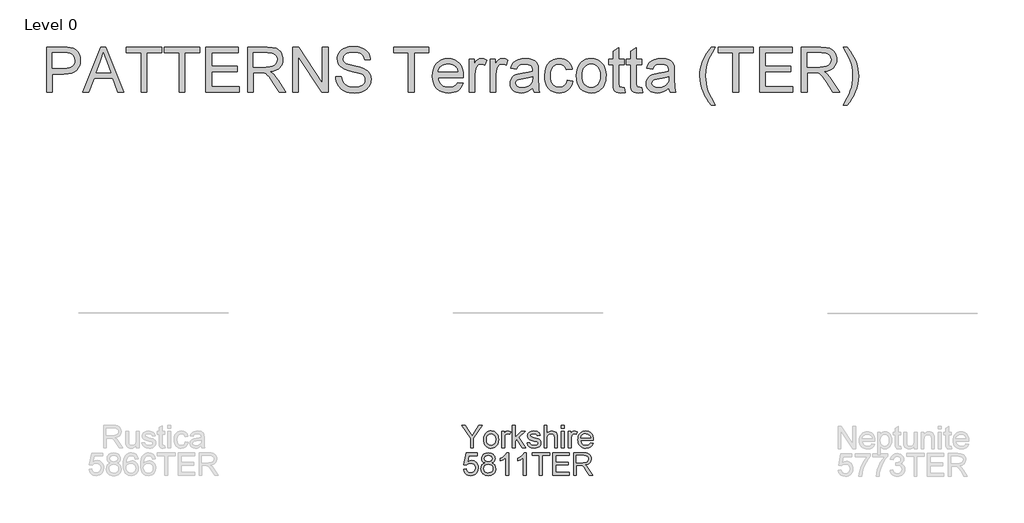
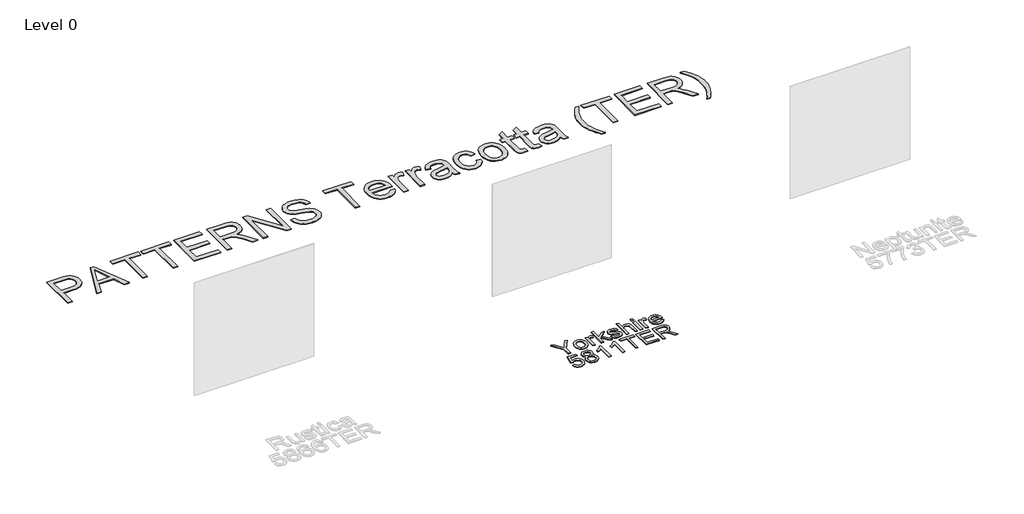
# One storey, part 17 of 29: 2 proxies.
"""IFC4 building model written with IfcOpenShell, lengths in millimetres."""

from ifc_helpers import new_model, si_unit, origin, origin_with_axes, place, context, project, spatial, polyline, outline, extrude, element, save

model = new_model("IFC4")

# Units and contexts
model_context = context("Model", 3, world=origin())
ifc_project = project(units=[si_unit("LENGTHUNIT", "METRE", prefix="MILLI")], contexts=[model_context])

# Site, building, storey
site = spatial("IfcSite", under=ifc_project)
building = spatial("IfcBuilding", under=site)
storey = spatial("IfcBuildingStorey", under=building, Name="Level 0", Elevation=0.0)

# Proxies
placement = place(None, origin())
element("IfcBuildingElementProxy", 1, Name="300mm Arial", ObjectType="300mm Arial", at=placement, inside=storey, context=model_context, shape_type="SweptSolid", body=[
    extrude(outline(polyline([(22784.1473937, -22007.860494), (22784.1473937, -21880.2054417), (22666.4251553, -21706.4915635), (22710.8653003, -21706.4915635), (22773.6995451, -21799.2714027), (22805.8524314, -21846.5810273), (22838.0788942, -21795.8868884), (22895.1006035, -21706.4915635), (22939.5407485, -21706.4915635), (22821.81851, -21880.2054417), (22821.81851, -22007.860494), (22784.1473937, -22007.860494)])), origin_with_axes(), (0.0, 0.0, 1.0), 10.0),
    extrude(outline(polyline([(22958.3763066, -21897.2015898), (22960.4134532, -21868.5389839), (22966.5248928, -21843.8403064), (22976.7106256, -21823.1055575), (22990.9706514, -21806.334737), (23005.3272463, -21795.6155754), (23021.1737632, -21787.9590314), (23038.5102022, -21783.3651049), (23057.3365633, -21781.8337961), (23078.1195968, -21783.698498), (23096.911469, -21789.2926036), (23113.7121798, -21798.6161129), (23128.5217294, -21811.669026), (23140.6089522, -21828.0098843), (23149.2426828, -21847.1972296), (23154.4229211, -21869.2310619), (23156.1496672, -21894.1113811), (23153.0962467, -21932.1687735), (23143.935985, -21961.1394806), (23128.9355967, -21982.8353213), (23108.3617961, -21999.0681143), (23083.9252345, -22009.1940662), (23057.3365633, -22012.5693835), (23036.2500272, -22010.7115794), (23017.2834111, -22005.1381672), (23000.436715, -21995.8491468), (22985.7099389, -21982.8445183), (22973.7514748, -21966.3450108), (22965.2097147, -21946.5713536), (22960.0846587, -21923.5235466), (22958.3763066, -21897.2015898)]), holes=[polyline([(22996.0474229, -21897.1280134), (23000.4068246, -21931.2214773), (23013.4850295, -21955.5108861), (23033.1667163, -21970.0514219), (23057.3365633, -21974.8982672), (23081.3960458, -21970.0238308), (23101.0409444, -21955.4005215), (23114.1191493, -21930.789216), (23118.4785509, -21895.950791), (23114.0915581, -21862.8506085), (23100.9305798, -21838.8922936), (23081.2580901, -21824.3517577), (23057.3365633, -21819.5049125), (23033.1667163, -21824.3333636), (23013.4850295, -21838.8187172), (23000.4068246, -21863.0529436), (22996.0474229, -21897.1280134)])]), origin_with_axes(), (0.0, 0.0, 1.0), 10.0),
    extrude(outline(polyline([(23198.5296731, -22007.860494), (23198.5296731, -21786.5426857), (23231.4918999, -21786.5426857), (23231.4918999, -21819.2841833), (23243.6687939, -21800.3014723), (23254.8891948, -21789.1178596), (23266.1463838, -21783.654812), (23278.4336424, -21781.8337961), (23297.1956242, -21784.7400639), (23316.2519115, -21793.4588672), (23303.6703473, -21827.2304343), (23290.4265955, -21821.4362929), (23277.1828437, -21819.5049125), (23265.9348517, -21821.3627165), (23255.8824761, -21826.9361288), (23247.7614811, -21835.8020848), (23242.3076305, -21847.5375205), (23237.7274997, -21868.5803706), (23236.2007894, -21891.5362071), (23236.2007894, -22007.860494), (23198.5296731, -22007.860494)])), origin_with_axes(), (0.0, 0.0, 1.0), 10.0),
    extrude(outline(polyline([(23339.7963592, -22007.860494), (23339.7963592, -21706.4915635), (23377.4674755, -21706.4915635), (23377.4674755, -21868.4332178), (23461.9331816, -21786.5426857), (23514.0252722, -21786.5426857), (23428.5294965, -21869.4632874), (23518.7341617, -22007.860494), (23474.7354751, -22007.860494), (23401.526958, -21895.6564855), (23377.4674755, -21918.9802039), (23377.4674755, -22007.860494), (23339.7963592, -22007.860494)])), origin_with_axes(), (0.0, 0.0, 1.0), 10.0),
    extrude(outline(polyline([(23537.5697198, -21941.9360404), (23575.2408362, -21937.2271509), (23581.1821304, -21953.3403823), (23592.6784427, -21965.1861825), (23609.8033496, -21972.470246), (23632.6304274, -21974.8982672), (23655.1815937, -21972.6725811), (23671.0373077, -21965.9955229), (23680.4182986, -21956.3202265), (23683.5452955, -21945.0998256), (23680.3999045, -21935.4981055), (23670.9637313, -21928.1772538), (23632.188969, -21917.4350996), (23575.4615653, -21899.0042116), (23561.1049705, -21889.7427824), (23550.7031071, -21877.4831149), (23544.3847338, -21863.0069584), (23542.2786094, -21847.0960621), (23543.9708666, -21832.5003439), (23549.0476381, -21819.0266659), (23557.0490715, -21807.2084568), (23567.5153143, -21797.5791455), (23591.4644321, -21786.4323211), (23623.8748359, -21781.8337961), (23648.3941709, -21783.6824032), (23669.7129325, -21789.2282242), (23686.8562335, -21797.9286334), (23698.8491865, -21809.2410048), (23706.7954376, -21824.0022698), (23711.7986328, -21843.0493601), (23674.1275165, -21847.7582497), (23669.3726417, -21835.9032524), (23659.9640596, -21826.972917), (23645.8097999, -21821.3719136), (23626.8178919, -21819.5049125), (23605.1864306, -21821.2891401), (23590.7654563, -21826.6418232), (23582.6536584, -21834.3673451), (23579.9497257, -21843.2700893), (23584.437886, -21854.2329728), (23598.4909782, -21862.5471059), (23630.9381702, -21870.5669334), (23686.2308341, -21888.2988455), (23700.8357493, -21896.7785255), (23711.9089974, -21908.3852025), (23718.8895582, -21923.1556646), (23721.2164118, -21941.1267001), (23718.484888, -21959.7047408), (23710.2903166, -21977.1791356), (23696.9453972, -21992.1795239), (23678.7628296, -22003.3355454), (23656.8002745, -22010.260924), (23632.1153926, -22012.5693835), (23594.1315766, -22008.1180114), (23566.4116683, -21994.763895), (23547.9072039, -21972.654187), (23537.5697198, -21941.9360404)])), origin_with_axes(), (0.0, 0.0, 1.0), 10.0),
    extrude(outline(polyline([(23763.5964177, -22007.860494), (23763.5964177, -21706.4915635), (23801.267534, -21706.4915635), (23801.267534, -21817.2976205), (23815.1044955, -21801.7821973), (23830.6429113, -21790.6997522), (23847.8827813, -21784.0502852), (23866.8241055, -21781.8337961), (23889.5776069, -21784.2526203), (23909.130535, -21791.5090926), (23924.5263965, -21803.0329961), (23934.8086982, -21818.2541137), (23940.6028397, -21839.1682051), (23942.5342201, -21867.7710302), (23942.5342201, -22007.860494), (23904.8631038, -22007.860494), (23904.8631038, -21871.6705794), (23901.8648656, -21848.0893435), (23892.8701508, -21831.9393239), (23878.3756002, -21822.6135153), (23858.8778544, -21819.5049125), (23842.9577611, -21821.6018398), (23828.012555, -21827.8926219), (23815.6333259, -21837.7702535), (23807.4111633, -21850.6277292), (23802.8034413, -21867.7158479), (23801.267534, -21890.2854083), (23801.267534, -22007.860494), (23763.5964177, -22007.860494)])), origin_with_axes(), (0.0, 0.0, 1.0), 10.0),
    extrude(outline(polyline([(23994.3320051, -21744.1626798), (23994.3320051, -21706.4915635), (24032.0031214, -21706.4915635), (24032.0031214, -21744.1626798), (23994.3320051, -21744.1626798)])), origin_with_axes(), (0.0, 0.0, 1.0), 10.0),
    extrude(outline(polyline([(23994.3320051, -22007.860494), (23994.3320051, -21786.5426857), (24032.0031214, -21786.5426857), (24032.0031214, -22007.860494), (23994.3320051, -22007.860494)])), origin_with_axes(), (0.0, 0.0, 1.0), 10.0),
    extrude(outline(polyline([(24088.5097958, -22007.860494), (24088.5097958, -21786.5426857), (24121.4720226, -21786.5426857), (24121.4720226, -21819.2841833), (24133.6489166, -21800.3014723), (24144.8693175, -21789.1178596), (24156.1265065, -21783.654812), (24168.4137652, -21781.8337961), (24187.1757469, -21784.7400639), (24206.2320343, -21793.4588672), (24193.65047, -21827.2304343), (24180.4067182, -21821.4362929), (24167.1629664, -21819.5049125), (24155.9149744, -21821.3627165), (24145.8625989, -21826.9361288), (24137.7416038, -21835.8020848), (24132.2877532, -21847.5375205), (24127.7076224, -21868.5803706), (24126.1809121, -21891.5362071), (24126.1809121, -22007.860494), (24088.5097958, -22007.860494)])), origin_with_axes(), (0.0, 0.0, 1.0), 10.0),
    extrude(outline(polyline([(24384.7283783, -21941.9360404), (24421.6637307, -21946.64493), (24408.3555995, -21974.4752029), (24387.1196113, -21995.2789297), (24358.4340127, -22008.2467701), (24322.7770504, -22012.5693835), (24299.4027481, -22010.7046817), (24278.5760286, -22005.1105761), (24260.296892, -21995.7870668), (24244.5653382, -21982.7341537), (24231.9147961, -21966.3151204), (24222.8786946, -21946.8932503), (24217.4570337, -21924.4685435), (24215.6498134, -21899.0409998), (24217.4754278, -21872.7512327), (24222.952271, -21849.5792656), (24232.080343, -21829.5250983), (24244.8596438, -21812.5887309), (24260.5498109, -21799.133447), (24278.4104817, -21789.5225298), (24298.4416564, -21783.7559796), (24320.6433348, -21781.8337961), (24342.1299426, -21783.751381), (24361.5610097, -21789.5041357), (24378.9365362, -21799.0920602), (24394.256522, -21812.5151545), (24406.7622106, -21829.4147337), (24415.6948453, -21849.4321128), (24421.0544261, -21872.5672917), (24422.840953, -21898.8202706), (24422.6202238, -21908.9738137), (24253.3209297, -21908.9738137), (24259.841638, -21937.1719686), (24274.9891792, -21957.902119), (24296.8505667, -21970.6492302), (24323.5128143, -21974.8982672), (24343.5623831, -21972.9300985), (24360.4481667, -21967.0255925), (24374.1701651, -21956.8168672), (24384.7283783, -21941.9360404)]), holes=[polyline([(24253.3209297, -21871.3026974), (24385.1698367, -21871.3026974), (24380.0746711, -21851.4002814), (24370.0866749, -21837.1632482), (24348.1241198, -21823.9194964), (24320.496182, -21819.5049125), (24295.1031273, -21823.0273826), (24274.1062624, -21833.5947929), (24259.5105442, -21850.0667092), (24253.3209297, -21871.3026974)])]), origin_with_axes(), (0.0, 0.0, 1.0), 10.0),
    extrude(outline(polyline([(22689.969603, -22293.7338254), (22727.6407193, -22289.0249358), (22734.5569008, -22311.6404815), (22746.6234302, -22327.8364863), (22763.7851253, -22337.5761621), (22785.9868037, -22340.8227207), (22812.9893421, -22336.3069693), (22833.2228519, -22322.7597148), (22845.8595984, -22301.7444558), (22850.0718473, -22274.8246908), (22846.1263129, -22249.4776213), (22834.2897097, -22230.0902402), (22814.4700672, -22217.7845875), (22786.5754149, -22213.6827032), (22768.3008768, -22215.3197781), (22753.5028235, -22220.2310027), (22732.3496088, -22237.2271509), (22694.6784925, -22232.5182614), (22727.6407193, -22077.1249066), (22873.616295, -22077.1249066), (22873.616295, -22114.7960229), (22758.1013485, -22114.7960229), (22741.9881171, -22197.790201), (22768.898685, -22181.4562404), (22797.09684, -22176.0115869), (22815.4426552, -22177.6992456), (22832.2939498, -22182.7622215), (22847.6507239, -22191.2005148), (22861.5129773, -22203.0141254), (22872.9885963, -22217.4810848), (22881.185467, -22233.8794248), (22886.1035894, -22252.2091452), (22887.7429636, -22272.470246), (22881.8384575, -22310.1413624), (22874.457825, -22326.9351754), (22864.1249395, -22342.3678251), (22848.4715606, -22358.1729553), (22830.2062195, -22369.4623341), (22809.3289163, -22376.2359613), (22785.8396509, -22378.4938371), (22748.8399192, -22372.6904986), (22733.1612485, -22365.4363255), (22719.3633744, -22355.2804832), (22707.8831569, -22342.7288093), (22699.1574558, -22328.2871418), (22689.969603, -22293.7338254)])), origin_with_axes(), (0.0, 0.0, 1.0), 10.0),
    extrude(outline(polyline([(22975.593184, -22207.7965913), (22955.4240536, -22197.8637774), (22941.2697939, -22184.3992964), (22932.9096755, -22167.6790597), (22930.1229694, -22147.9789789), (22931.6404826, -22132.6153071), (22936.1930223, -22118.5300252), (22943.7805885, -22105.7231332), (22954.4031811, -22094.1946312), (22967.5503639, -22084.6664875), (22982.7117006, -22077.8606706), (23019.0768358, -22072.4160171), (23055.6627003, -22077.9894293), (23070.9895839, -22084.9561946), (23084.3391018, -22094.709666), (23095.1548324, -22106.4634957), (23102.8803543, -22119.4313361), (23107.5156675, -22133.613187), (23109.0607719, -22149.0090485), (23106.310854, -22168.0745329), (23098.0611002, -22184.509661), (23084.2195401, -22197.8913686), (23064.6942032, -22207.7965913), (23087.879966, -22219.7435591), (23104.7565525, -22237.3375155), (23115.0480513, -22259.732332), (23118.4785509, -22286.0818799), (23116.7770967, -22304.8714528), (23111.672734, -22322.0975272), (23103.1654629, -22337.7601031), (23091.2552833, -22351.8591806), (23076.5675946, -22363.5118428), (23059.7277963, -22371.8351729), (23040.7358883, -22376.829171), (23019.5918706, -22378.4938371), (22998.447853, -22376.8222732), (22979.455945, -22371.8075818), (22962.6161466, -22363.4497627), (22947.928458, -22351.748816), (22936.0182784, -22337.5508703), (22927.5110072, -22321.7020541), (22922.4066446, -22304.2023674), (22920.7051903, -22285.0518103), (22924.2736457, -22257.6813898), (22934.9790117, -22235.1670117), (22952.2694655, -22218.2812282), (22975.593184, -22207.7965913)]), holes=[polyline([(22958.3763066, -22283.7274351), (22964.6670888, -22312.0911369), (22973.376695, -22324.2588339), (22986.9239495, -22333.317928), (23003.1475455, -22338.9465226), (23019.8861762, -22340.8227207), (23045.5275513, -22336.8771864), (23064.7677796, -22325.0405832), (23076.7975209, -22307.1155329), (23080.8074346, -22284.9046575), (23076.6687622, -22262.316703), (23064.2527449, -22243.9961796), (23044.5710581, -22231.8560738), (23018.6353775, -22227.8093718), (22993.3526873, -22231.8008915), (22974.305597, -22243.7754504), (22962.3586292, -22261.7464859), (22958.3763066, -22283.7274351)]), polyline([(22967.7940857, -22149.0826249), (22971.1326148, -22165.52695), (22981.1482021, -22178.6603373), (22997.5465421, -22187.268776), (23020.033329, -22190.1382555), (23041.9958841, -22187.2871701), (23058.1459037, -22178.7339137), (23068.0787176, -22166.0419848), (23071.3896556, -22150.774882), (23067.968353, -22134.9283651), (23057.7044453, -22121.822569), (23041.3336966, -22113.0209923), (23019.5918706, -22110.0871334), (22997.712089, -22112.9566129), (22981.3689313, -22121.5650516), (22971.1877971, -22134.1834041), (22967.7940857, -22149.0826249)])]), origin_with_axes(), (0.0, 0.0, 1.0), 10.0),
    extrude(outline(polyline([(23292.7074639, -22373.7849475), (23255.0363476, -22373.7849475), (23255.0363476, -22138.9290818), (23219.351794, -22164.3497277), (23179.6941149, -22183.3692268), (23179.6941149, -22147.7582497), (23209.2810244, -22131.6634124), (23234.9132024, -22112.5151545), (23255.119121, -22092.1528861), (23268.4272522, -22072.4160171), (23292.7074639, -22072.4160171), (23292.7074639, -22373.7849475)])), origin_with_axes(), (0.0, 0.0, 1.0), 10.0),
    extrude(outline(polyline([(23523.4430512, -22373.7849475), (23485.7719349, -22373.7849475), (23485.7719349, -22138.9290818), (23450.0873814, -22164.3497277), (23410.4297023, -22183.3692268), (23410.4297023, -22147.7582497), (23440.0166118, -22131.6634124), (23465.6487898, -22112.5151545), (23485.8547084, -22092.1528861), (23499.1628396, -22072.4160171), (23523.4430512, -22072.4160171), (23523.4430512, -22373.7849475)])), origin_with_axes(), (0.0, 0.0, 1.0), 10.0),
    extrude(outline(polyline([(23702.3808537, -22373.7849475), (23702.3808537, -22110.0871334), (23603.4941734, -22110.0871334), (23603.4941734, -22072.4160171), (23838.9386503, -22072.4160171), (23838.9386503, -22110.0871334), (23740.05197, -22110.0871334), (23740.05197, -22373.7849475), (23702.3808537, -22373.7849475)])), origin_with_axes(), (0.0, 0.0, 1.0), 10.0),
    extrude(outline(polyline([(23881.3186561, -22373.7849475), (23881.3186561, -22072.4160171), (24097.9275749, -22072.4160171), (24097.9275749, -22110.0871334), (23918.9897724, -22110.0871334), (23918.9897724, -22199.5560346), (24088.5097958, -22199.5560346), (24088.5097958, -22237.2271509), (23918.9897724, -22237.2271509), (23918.9897724, -22336.1138312), (24102.6364644, -22336.1138312), (24102.6364644, -22373.7849475), (23881.3186561, -22373.7849475)])), origin_with_axes(), (0.0, 0.0, 1.0), 10.0),
    extrude(outline(polyline([(24159.1431389, -22373.7849475), (24159.1431389, -22072.4160171), (24289.0054832, -22072.4160171), (24323.9082875, -22074.4485651), (24349.3013422, -22080.5462092), (24367.8609889, -22091.8033982), (24382.263569, -22109.3145812), (24391.5066041, -22131.0288159), (24394.5876158, -22154.8951604), (24389.4832531, -22184.5832374), (24374.1701651, -22209.1945429), (24362.5703859, -22219.2239258), (24348.1884992, -22227.2391547), (24311.0784029, -22237.2271509), (24332.489135, -22253.3403823), (24363.0233406, -22292.1151446), (24413.2760212, -22373.7849475), (24369.4980637, -22373.7849475), (24330.2818431, -22311.3185847), (24301.9549294, -22269.9686485), (24282.0525135, -22250.4341145), (24264.1366603, -22243.2604156), (24242.2844698, -22241.9360404), (24196.8142552, -22241.9360404), (24196.8142552, -22373.7849475), (24159.1431389, -22373.7849475)]), holes=[polyline([(24196.8142552, -22204.2649241), (24281.1328085, -22204.2649241), (24305.3486408, -22202.9313519), (24324.1382137, -22198.9306352), (24338.2832764, -22191.9960596), (24348.5655782, -22181.8609106), (24354.8287692, -22169.6012431), (24356.9164995, -22156.293112), (24352.9341769, -22137.9174063), (24340.9872091, -22123.110156), (24320.4318026, -22113.342889), (24290.624164, -22110.0871334), (24196.8142552, -22110.0871334), (24196.8142552, -22204.2649241)])]), origin_with_axes(), (0.0, 0.0, 1.0), 10.0),
])
element("IfcBuildingElementProxy", 2, Name="600mm Arial", ObjectType="600mm Arial", at=placement, inside=storey, context=model_context, shape_type="SweptSolid", body=[
    extrude(outline(polyline([(17122.5368148, -17256.8720473), (17122.5368148, -16654.1341864), (17345.9147622, -16654.1341864), (17397.9332763, -16655.5689262), (17435.9722746, -16659.8731456), (17476.1265944, -16670.5969057), (17509.1807917, -16688.0529064), (17535.797054, -16713.0320939), (17556.6375691, -16746.3254144), (17570.1020501, -16785.5968174), (17574.5902104, -16828.5102521), (17571.5597825, -16865.5099838), (17562.4684987, -16899.5482654), (17547.316359, -16930.625097), (17526.1033635, -16958.7404784), (17496.980905, -16982.0458028), (17458.1003767, -16998.6924631), (17409.4617784, -17008.6804593), (17351.0651102, -17012.0097913), (17197.8790474, -17012.0097913), (17197.8790474, -17256.8720473), (17122.5368148, -17256.8720473)]), holes=[polyline([(17197.8790474, -16936.6675587), (17355.4796941, -16936.6675587), (17391.7160706, -16934.9385133), (17422.2870644, -16929.7513772), (17447.1926755, -16921.1061503), (17466.4329039, -16909.0028327), (17480.7894987, -16893.763321), (17491.0442093, -16875.7095121), (17497.1970357, -16854.8414059), (17499.2479778, -16831.1590025), (17494.4103296, -16797.313859), (17479.8973849, -16768.7662161), (17457.5117655, -16747.2819076), (17429.0560931, -16734.626767), (17399.9934155, -16730.764006), (17353.7138605, -16729.476419), (17197.8790474, -16729.476419), (17197.8790474, -16936.6675587)])]), origin_with_axes(), (0.0, 0.0, 1.0), 10.0),
    extrude(outline(polyline([(17607.9938956, -17256.8720473), (17848.5887204, -16654.1341864), (17912.7473404, -16654.1341864), (18153.3421652, -17256.8720473), (18073.7325015, -17256.8720473), (18004.7178392, -17068.5164658), (17756.4710688, -17068.5164658), (17687.6035594, -17256.8720473), (17607.9938956, -17256.8720473)]), holes=[polyline([(17784.1357949, -16993.1742332), (17977.200266, -16993.1742332), (17922.9008835, -16844.9913655), (17880.6680304, -16729.476419), (17843.1440669, -16832.0419193), (17784.1357949, -16993.1742332)])]), origin_with_axes(), (0.0, 0.0, 1.0), 10.0),
    extrude(outline(polyline([(18384.519211, -17256.8720473), (18384.519211, -16729.476419), (18186.7458504, -16729.476419), (18186.7458504, -16654.1341864), (18657.6348042, -16654.1341864), (18657.6348042, -16729.476419), (18459.8614436, -16729.476419), (18459.8614436, -17256.8720473), (18384.519211, -17256.8720473)])), origin_with_axes(), (0.0, 0.0, 1.0), 10.0),
    extrude(outline(polyline([(18893.0792811, -17256.8720473), (18893.0792811, -16729.476419), (18695.3059205, -16729.476419), (18695.3059205, -16654.1341864), (19166.1948744, -16654.1341864), (19166.1948744, -16729.476419), (18968.4215138, -16729.476419), (18968.4215138, -17256.8720473), (18893.0792811, -17256.8720473)])), origin_with_axes(), (0.0, 0.0, 1.0), 10.0),
    extrude(outline(polyline([(19250.9548861, -17256.8720473), (19250.9548861, -16654.1341864), (19684.1727236, -16654.1341864), (19684.1727236, -16729.476419), (19326.2971187, -16729.476419), (19326.2971187, -16908.4142215), (19665.3371654, -16908.4142215), (19665.3371654, -16983.7564541), (19326.2971187, -16983.7564541), (19326.2971187, -17181.5298147), (19693.5905027, -17181.5298147), (19693.5905027, -17256.8720473), (19250.9548861, -17256.8720473)])), origin_with_axes(), (0.0, 0.0, 1.0), 10.0),
    extrude(outline(polyline([(19806.6038516, -17256.8720473), (19806.6038516, -16654.1341864), (20066.3285402, -16654.1341864), (20136.1341487, -16658.1992825), (20186.9202582, -16670.3945706), (20206.5191715, -16680.0882612), (20224.0395515, -16692.9089487), (20239.4813982, -16708.8566332), (20252.8447117, -16727.9313147), (20263.6282527, -16749.107522), (20271.330782, -16771.3597842), (20275.9522995, -16794.6881012), (20277.4928054, -16819.0924731), (20274.9406241, -16850.049743), (20267.28408, -16878.4686271), (20254.5231733, -16904.3491255), (20236.6579039, -16927.691238), (20213.4583456, -16947.7500038), (20184.6945721, -16963.7804618), (20150.3665834, -16975.7826119), (20110.4743796, -16983.7564541), (20135.3064143, -16999.9800501), (20153.2958438, -17015.9829169), (20184.1611432, -17052.5871754), (20214.364255, -17093.5324415), (20314.8696161, -17256.8720473), (20227.3137013, -17256.8720473), (20148.8812599, -17131.9393218), (20092.2274326, -17049.2394493), (20071.1661884, -17025.1247845), (20052.4226007, -17010.1703814), (20016.5908944, -16995.8229836), (19972.8865134, -16993.1742332), (19881.9460842, -16993.1742332), (19881.9460842, -17256.8720473), (19806.6038516, -17256.8720473)]), holes=[polyline([(19881.9460842, -16917.8320006), (20050.5831908, -16917.8320006), (20099.0148554, -16915.1648561), (20136.5940012, -16907.1634227), (20164.8841267, -16893.2942715), (20185.4487302, -16873.0239736), (20197.9751121, -16848.5046386), (20202.1505728, -16821.8883762), (20200.1594115, -16802.6205567), (20194.1859276, -16785.1369649), (20184.2301211, -16769.4376008), (20170.291992, -16755.5224643), (20152.0496436, -16744.1273195), (20129.181179, -16735.9879304), (20101.6865984, -16731.1042969), (20069.5659017, -16729.476419), (19881.9460842, -16729.476419), (19881.9460842, -16917.8320006)])]), origin_with_axes(), (0.0, 0.0, 1.0), 10.0),
    extrude(outline(polyline([(20409.3417125, -17256.8720473), (20409.3417125, -16654.1341864), (20489.9814458, -16654.1341864), (20804.8884337, -17131.6450162), (20804.8884337, -16654.1341864), (20880.2306663, -16654.1341864), (20880.2306663, -17256.8720473), (20799.590933, -17256.8720473), (20484.6839451, -16779.2140648), (20484.6839451, -17256.8720473), (20409.3417125, -17256.8720473)])), origin_with_axes(), (0.0, 0.0, 1.0), 10.0),
    extrude(outline(polyline([(20983.8262361, -17049.6809076), (21059.1684687, -17049.6809076), (21067.8136956, -17091.4906964), (21083.4486804, -17125.0967167), (21107.8392567, -17151.7681613), (21142.7512581, -17172.7742232), (21185.4255695, -17186.4042512), (21233.1030761, -17190.9475938), (21275.0784117, -17187.5078971), (21311.829823, -17177.1888072), (21341.6098705, -17160.8548466), (21362.6711148, -17139.3705381), (21375.1974967, -17114.7040503), (21379.3729573, -17088.8235519), (21376.2459604, -17063.6052412), (21366.8649695, -17041.8082329), (21347.8086822, -17023.2117981), (21315.6557958, -17007.5952074), (21205.9533848, -16978.8268354), (21133.9404843, -16959.7889421), (21087.8632644, -16941.6707539), (21050.357695, -16916.3236844), (21023.7782208, -16885.6055378), (21007.9409009, -16850.1785017), (21002.6617943, -16810.7047636), (21004.2942706, -16788.2685604), (21009.1916997, -16766.5773183), (21017.3540815, -16745.6310372), (21028.7814159, -16725.4297171), (21043.3449444, -16706.796494), (21060.9159082, -16690.554504), (21081.4943073, -16676.7037468), (21105.0801417, -16665.2442227), (21158.0919372, -16649.8483612), (21216.7691155, -16644.7164074), (21280.3391242, -16650.0874845), (21335.9628819, -16666.2007159), (21360.2982759, -16678.202866), (21381.6538257, -16692.7250077), (21400.0295314, -16709.7671412), (21415.4253929, -16729.3292662), (21427.7218486, -16750.8411659), (21436.7993368, -16773.7326231), (21442.6578576, -16798.0036377), (21445.2974109, -16823.6542098), (21369.9551783, -16823.6542098), (21364.9151949, -16799.6131214), (21356.1228153, -16778.69903), (21343.5780392, -16760.9119355), (21327.2808668, -16746.251838), (21306.9277954, -16734.7923139), (21282.2153224, -16726.6069395), (21253.1434478, -16721.6957148), (21219.7121714, -16720.05864), (21185.2140373, -16721.6773207), (21155.7374925, -16726.5333631), (21131.2825369, -16734.626767), (21111.8491705, -16745.9575324), (21097.0419202, -16759.5783633), (21086.4653128, -16774.5419635), (21080.1193484, -16790.8483329), (21078.0040269, -16808.4974716), (21079.503146, -16823.681801), (21084.0005034, -16837.4497846), (21091.4960991, -16849.8014226), (21101.989933, -16860.7367149), (21118.5078346, -16871.0925931), (21144.5170916, -16881.5588358), (21225.0096722, -16902.8224152), (21308.0774267, -16923.0191367), (21358.3301072, -16940.6406843), (21401.2803302, -16967.9743165), (21417.8856037, -16984.0415627), (21431.2443187, -17001.7090955), (21441.5128249, -17020.8849445), (21448.8474721, -17041.4771392), (21454.71519, -17086.9105656), (21453.0275313, -17110.4780059), (21447.9645553, -17133.3556674), (21439.5262621, -17155.5435503), (21427.7126515, -17177.0416544), (21412.7306573, -17197.0176467), (21394.7872129, -17214.6391943), (21373.8823186, -17229.9062971), (21350.0159741, -17242.8189551), (21323.8825569, -17253.0874613), (21296.1764441, -17260.4221086), (21236.046132, -17266.2898264), (21197.5058945, -17264.7079338), (21162.2306097, -17259.9622561), (21130.2202776, -17252.0527932), (21101.4748982, -17240.9795451), (21075.8197276, -17226.7241178), (21053.0800217, -17209.2681172), (21033.2557807, -17188.6115431), (21016.3470045, -17164.7543957), (21002.7261736, -17138.4692272), (20992.7657686, -17110.5285896), (20986.4657894, -17080.9324831), (20983.8262361, -17049.6809076)])), origin_with_axes(), (0.0, 0.0, 1.0), 10.0),
    extrude(outline(polyline([(21953.857481, -17256.8720473), (21953.857481, -16729.476419), (21756.0841204, -16729.476419), (21756.0841204, -16654.1341864), (22226.9730742, -16654.1341864), (22226.9730742, -16729.476419), (22029.1997136, -16729.476419), (22029.1997136, -17256.8720473), (21953.857481, -17256.8720473)])), origin_with_axes(), (0.0, 0.0, 1.0), 10.0),
    extrude(outline(polyline([(22612.2190996, -17125.0231403), (22686.0898042, -17134.4409193), (22674.7636373, -17164.0278288), (22659.4735419, -17190.1014652), (22640.2195179, -17212.6618286), (22617.0015655, -17231.7089189), (22590.0588079, -17246.8380659), (22559.6303684, -17257.6445995), (22525.7162469, -17264.1285197), (22488.3164436, -17266.2898264), (22441.5678391, -17262.5604227), (22399.9144002, -17251.3722115), (22363.3561269, -17232.7251929), (22331.8930193, -17206.6193668), (22306.591935, -17173.7813002), (22288.519732, -17134.93756), (22277.6764102, -17090.0881463), (22274.0619696, -17039.233059), (22277.7131984, -16986.6535248), (22288.6668848, -16940.3095905), (22306.9230288, -16900.201256), (22332.4816305, -16866.3285212), (22363.8619646, -16839.4179533), (22399.5833064, -16820.1961191), (22439.6456556, -16808.6630185), (22484.0490125, -16804.8186517), (22527.022228, -16808.6538215), (22565.8843623, -16820.1593309), (22600.6354153, -16839.3351799), (22631.2753869, -16866.1813685), (22656.2867641, -16899.9805268), (22674.1520335, -16940.0152849), (22684.8711951, -16986.2856428), (22688.444249, -17038.7916006), (22688.0027906, -17059.0986867), (22349.4042022, -17059.0986867), (22353.7682024, -17089.1638428), (22362.445619, -17115.4949966), (22375.4364519, -17138.0921481), (22392.7407013, -17156.9552974), (22413.4018738, -17171.8269271), (22436.4634764, -17182.4495197), (22461.925509, -17188.8230753), (22489.7879716, -17190.9475938), (22529.8871091, -17187.0112564), (22563.6586762, -17175.2022444), (22591.1026731, -17154.7847937), (22612.2190996, -17125.0231403)]), holes=[polyline([(22349.4042022, -16983.7564541), (22613.1020164, -16983.7564541), (22602.9116851, -16943.9516222), (22594.1468966, -16928.2982433), (22582.9356928, -16915.4775558), (22562.3894833, -16900.026512), (22539.0105825, -16888.9900522), (22512.7989904, -16882.3681762), (22483.7547069, -16880.1608843), (22457.2626047, -16881.9221193), (22432.9685974, -16887.2058245), (22410.8726851, -16896.0119997), (22390.9748677, -16908.3406451), (22374.2776236, -16923.6215435), (22361.7834314, -16941.2844778), (22353.4922909, -16961.329448), (22349.4042022, -16983.7564541)])]), origin_with_axes(), (0.0, 0.0, 1.0), 10.0),
    extrude(outline(polyline([(22763.7864816, -17256.8720473), (22763.7864816, -16814.2364307), (22829.7109351, -16814.2364307), (22829.7109351, -16879.7194259), (22854.0647232, -16841.754004), (22876.5055249, -16819.3867787), (22899.019903, -16808.4606834), (22923.5944203, -16804.8186517), (22961.1183838, -16810.6311872), (22999.2309585, -16828.0687938), (22974.06783, -16895.6119281), (22947.5803264, -16884.0236452), (22921.0928227, -16880.1608843), (22898.5968387, -16883.8764924), (22878.4920877, -16895.0233169), (22862.2500976, -16912.755229), (22851.3423965, -16936.2261003), (22842.1821348, -16978.3118006), (22839.1287142, -17024.2234736), (22839.1287142, -17256.8720473), (22763.7864816, -17256.8720473)])), origin_with_axes(), (0.0, 0.0, 1.0), 10.0),
    extrude(outline(polyline([(23046.3198539, -17256.8720473), (23046.3198539, -16814.2364307), (23112.2443074, -16814.2364307), (23112.2443074, -16879.7194259), (23136.5980955, -16841.754004), (23159.0388972, -16819.3867787), (23181.5532753, -16808.4606834), (23206.1277926, -16804.8186517), (23243.6517561, -16810.6311872), (23281.7643308, -16828.0687938), (23256.6012023, -16895.6119281), (23230.1136987, -16884.0236452), (23203.626195, -16880.1608843), (23181.130211, -16883.8764924), (23161.02546, -16895.0233169), (23144.7834699, -16912.755229), (23133.8757687, -16936.2261003), (23124.7155071, -16978.3118006), (23121.6620865, -17024.2234736), (23121.6620865, -17256.8720473), (23046.3198539, -17256.8720473)])), origin_with_axes(), (0.0, 0.0, 1.0), 10.0),
    extrude(outline(polyline([(23611.3865985, -17200.3653729), (23575.3893453, -17231.2306723), (23538.3252342, -17251.4273938), (23499.3481369, -17262.5742183), (23457.6119245, -17266.2898264), (23424.0656851, -17264.0549433), (23394.648921, -17257.3502939), (23369.3616324, -17246.1758783), (23348.2038191, -17230.5316965), (23331.497378, -17211.4110298), (23319.5642058, -17189.8071596), (23312.4043025, -17165.720086), (23310.017668, -17139.1498089), (23313.6229116, -17107.9166275), (23324.4386422, -17079.5529257), (23341.1220907, -17055.272714), (23362.3304878, -17036.290003), (23387.2544929, -17021.9426052), (23415.0847659, -17011.5683329), (23480.2734554, -17000.2375675), (23557.3079452, -16988.3181908), (23610.9451401, -16974.338675), (23611.3865985, -16957.5632561), (23606.1994624, -16923.9388417), (23599.7155422, -16911.4860362), (23590.638054, -16901.9394984), (23574.9478869, -16892.4113547), (23555.8364172, -16885.6055378), (23507.3495702, -16880.1608843), (23462.4679668, -16883.7845219), (23431.1244208, -16894.6554349), (23409.7504769, -16914.7601859), (23394.7776797, -16946.0853378), (23319.4354471, -16936.6675587), (23332.513652, -16895.4647753), (23352.0297919, -16863.0911597), (23379.8048825, -16838.3327014), (23417.6599398, -16819.9753899), (23463.9578889, -16808.6078362), (23517.0616549, -16804.8186517), (23567.9949172, -16808.1663778), (23608.3699661, -16818.2095563), (23638.8122012, -16833.3111122), (23659.9470218, -16851.8339706), (23673.9633259, -16874.7346248), (23683.0500111, -16902.969568), (23686.7288311, -16968.8940215), (23686.7288311, -17062.6303539), (23690.5548038, -17193.5227678), (23696.2201866, -17225.8779892), (23705.5643893, -17256.8720473), (23630.2221566, -17256.8720473), (23618.1556272, -17230.6788493), (23611.3865985, -17200.3653729)]), holes=[polyline([(23611.3865985, -17049.6809076), (23560.7660359, -17062.2256837), (23489.8383873, -17072.7838969), (23425.0175797, -17084.9975792), (23408.1501902, -17093.3485005), (23395.6605965, -17104.8632069), (23387.9350746, -17118.6587817), (23385.3599006, -17133.8523081), (23390.9701011, -17156.2563216), (23407.8007024, -17174.6136332), (23435.4838225, -17186.8641036), (23473.6515795, -17190.9475938), (23514.118599, -17186.4410394), (23549.8767289, -17172.921376), (23578.8658301, -17153.000566), (23599.0257634, -17129.2905714), (23607.9652959, -17104.8632069), (23610.9451401, -17071.0180634), (23611.3865985, -17049.6809076)])]), origin_with_axes(), (0.0, 0.0, 1.0), 10.0),
    extrude(outline(polyline([(24072.8577732, -17096.769803), (24148.2000058, -17106.1875821), (24140.0054344, -17141.7387784), (24127.1939439, -17173.1972875), (24109.7655344, -17200.5631094), (24087.7202058, -17223.8362442), (24061.9868603, -17242.4096864), (24033.4943998, -17255.6764308), (24002.2428243, -17263.6364775), (23968.2321338, -17266.2898264), (23925.9762881, -17262.5880138), (23888.0890412, -17251.4825761), (23854.5703929, -17232.9735132), (23825.4203433, -17207.0608252), (23801.8253118, -17174.2319556), (23784.9717179, -17134.9743482), (23774.8595616, -17089.288003), (23771.4888428, -17037.1729198), (23777.246196, -16970.1264262), (23784.4428875, -16939.9555041), (23794.5182557, -16912.0194651), (23807.5412783, -16886.8793292), (23823.5809333, -16865.0961166), (23842.6372207, -16846.6698271), (23864.7101404, -16831.6004609), (23888.8018125, -16819.8834194), (23913.9143572, -16811.514104), (23940.0477745, -16806.4925147), (23967.2020642, -16804.8186517), (24000.628742, -16807.1179141), (24030.8640435, -16814.0157015), (24057.9079687, -16825.5120139), (24081.7605175, -16841.6068512), (24102.0170199, -16861.9323314), (24118.2728055, -16886.1205726), (24130.5278745, -16914.1715747), (24138.7822268, -16946.0853378), (24063.4399942, -16955.5031169), (24049.773178, -16922.6328606), (24028.4912046, -16899.0700188), (24000.7712963, -16884.8881679), (23967.7906754, -16880.1608843), (23942.1906871, -16882.4877379), (23919.1014934, -16889.4682987), (23898.5230942, -16901.1025668), (23880.4554898, -16917.3905422), (23865.7448085, -16938.7093038), (23855.237179, -16965.4359307), (23848.9326013, -16997.570423), (23846.8310754, -17035.1127806), (23848.886616, -17073.2207568), (23855.053238, -17105.7277296), (23865.3309412, -17132.633699), (23879.7197258, -17153.9386651), (23897.4286453, -17170.1300714), (23917.6667536, -17181.6953616), (23940.4340505, -17188.6345357), (23965.7305362, -17190.9475938), (24004.7444218, -17185.1718465), (24021.6164098, -17177.9521623), (24036.7317613, -17167.8446045), (24049.667412, -17154.7388084), (24060.0002975, -17138.5244095), (24067.7304179, -17119.2014077), (24072.8577732, -17096.769803)])), origin_with_axes(), (0.0, 0.0, 1.0), 10.0),
    extrude(outline(polyline([(24195.2889012, -17035.554239), (24199.3631943, -16978.2290271), (24211.5860736, -16928.8316722), (24231.9575391, -16887.3621743), (24260.4775908, -16853.8205334), (24289.1907805, -16832.3822101), (24320.8838144, -16817.0691221), (24355.5566924, -16807.8812693), (24393.2094146, -16804.8186517), (24434.7754816, -16808.5480554), (24472.3592259, -16819.7362666), (24505.9606476, -16838.3832852), (24535.5797468, -16864.4891113), (24559.7541924, -16897.170828), (24577.0216535, -16935.5455186), (24587.3821302, -16979.6131831), (24590.8356224, -17029.3738215), (24589.3089122, -17069.7028852), (24584.7287813, -17105.4886063), (24577.0952299, -17136.7309848), (24566.408258, -17163.4300206), (24552.8012227, -17186.4916231), (24536.4074813, -17206.8217019), (24517.2270337, -17224.4202568), (24495.2598801, -17239.287288), (24471.361346, -17251.1008985), (24446.386757, -17259.5391918), (24420.3361133, -17264.6021678), (24393.2094146, -17266.2898264), (24351.0363424, -17262.5742183), (24313.1031102, -17251.4273938), (24279.409718, -17232.849353), (24249.9561657, -17206.840096), (24226.0392375, -17173.841081), (24208.9557174, -17134.2937665), (24198.7056053, -17088.1981525), (24195.2889012, -17035.554239)]), holes=[polyline([(24270.6311338, -17035.4070862), (24272.8108347, -17071.9515639), (24279.3499371, -17103.594014), (24290.2484412, -17130.3344366), (24305.506347, -17152.1728315), (24324.0659936, -17169.13679), (24344.8697205, -17181.2539032), (24367.9175275, -17188.5241712), (24393.2094146, -17190.9475938), (24418.3725431, -17188.5103756), (24441.3283796, -17181.1987209), (24462.0769241, -17169.0126298), (24480.6181767, -17151.9521023), (24495.8760824, -17129.8975767), (24506.7745865, -17102.7294913), (24513.313689, -17070.4478463), (24515.4933898, -17033.0526415), (24513.2998934, -16997.6669921), (24506.7194042, -16966.8522764), (24495.7519223, -16940.6084946), (24480.3974475, -16918.9356466), (24461.7872171, -16901.9716881), (24441.0524681, -16889.8545748), (24418.1932006, -16882.5843069), (24393.2094146, -16880.1608843), (24367.9175275, -16882.5751099), (24344.8697205, -16889.8177866), (24324.0659936, -16901.8889146), (24305.506347, -16918.7884938), (24290.2484412, -16940.5625094), (24279.3499371, -16967.2569466), (24272.8108347, -16998.8718056), (24270.6311338, -17035.4070862)])]), origin_with_axes(), (0.0, 0.0, 1.0), 10.0),
    extrude(outline(polyline([(24835.6978784, -17194.0378026), (24845.1156575, -17259.0793393), (24788.7561358, -17266.2898264), (24752.5933357, -17263.1628294), (24725.6275855, -17253.7818386), (24706.5712981, -17239.3240762), (24694.1368867, -17220.9667646), (24687.2942816, -17189.4392776), (24685.0134132, -17135.4709889), (24685.0134132, -16889.5786633), (24628.5067388, -16889.5786633), (24628.5067388, -16814.2364307), (24685.0134132, -16814.2364307), (24685.0134132, -16706.6677353), (24760.3556458, -16662.3747431), (24760.3556458, -16814.2364307), (24835.6978784, -16814.2364307), (24835.6978784, -16889.5786633), (24760.3556458, -16889.5786633), (24760.3556458, -17133.2636969), (24764.3287714, -17172.1120356), (24777.2046412, -17185.8708223), (24788.0755542, -17189.6784009), (24802.8828045, -17190.9475938), (24835.6978784, -17194.0378026)])), origin_with_axes(), (0.0, 0.0, 1.0), 10.0),
    extrude(outline(polyline([(25071.1423553, -17194.0378026), (25080.5601344, -17259.0793393), (25024.2006128, -17266.2898264), (24988.0378126, -17263.1628294), (24961.0720624, -17253.7818386), (24942.015775, -17239.3240762), (24929.5813636, -17220.9667646), (24922.7387585, -17189.4392776), (24920.4578901, -17135.4709889), (24920.4578901, -16889.5786633), (24863.9512157, -16889.5786633), (24863.9512157, -16814.2364307), (24920.4578901, -16814.2364307), (24920.4578901, -16706.6677353), (24995.8001227, -16662.3747431), (24995.8001227, -16814.2364307), (25071.1423553, -16814.2364307), (25071.1423553, -16889.5786633), (24995.8001227, -16889.5786633), (24995.8001227, -17133.2636969), (24999.7732483, -17172.1120356), (25012.6491181, -17185.8708223), (25023.5200311, -17189.6784009), (25038.3272814, -17190.9475938), (25071.1423553, -17194.0378026)])), origin_with_axes(), (0.0, 0.0, 1.0), 10.0),
    extrude(outline(polyline([(25429.0179603, -17200.3653729), (25393.020707, -17231.2306723), (25355.956596, -17251.4273938), (25316.9794986, -17262.5742183), (25275.2432863, -17266.2898264), (25241.6970468, -17264.0549433), (25212.2802828, -17257.3502939), (25186.9929942, -17246.1758783), (25165.8351809, -17230.5316965), (25149.1287398, -17211.4110298), (25137.1955676, -17189.8071596), (25130.0356642, -17165.720086), (25127.6490298, -17139.1498089), (25131.2542734, -17107.9166275), (25142.070004, -17079.5529257), (25158.7534525, -17055.272714), (25179.9618495, -17036.290003), (25204.8858547, -17021.9426052), (25232.7161276, -17011.5683329), (25297.9048172, -17000.2375675), (25374.939307, -16988.3181908), (25428.5765019, -16974.338675), (25429.0179603, -16957.5632561), (25423.8308241, -16923.9388417), (25417.346904, -16911.4860362), (25408.2694157, -16901.9394984), (25392.5792486, -16892.4113547), (25373.467779, -16885.6055378), (25324.980932, -16880.1608843), (25280.0993286, -16883.7845219), (25248.7557826, -16894.6554349), (25227.3818387, -16914.7601859), (25212.4090415, -16946.0853378), (25137.0668089, -16936.6675587), (25150.1450138, -16895.4647753), (25169.6611537, -16863.0911597), (25197.4362443, -16838.3327014), (25235.2913016, -16819.9753899), (25281.5892507, -16808.6078362), (25334.6930167, -16804.8186517), (25385.6262789, -16808.1663778), (25426.0013279, -16818.2095563), (25456.443563, -16833.3111122), (25477.5783836, -16851.8339706), (25491.5946876, -16874.7346248), (25500.6813729, -16902.969568), (25504.3601929, -16968.8940215), (25504.3601929, -17062.6303539), (25508.1861656, -17193.5227678), (25513.8515483, -17225.8779892), (25523.195751, -17256.8720473), (25447.8535184, -17256.8720473), (25435.786989, -17230.6788493), (25429.0179603, -17200.3653729)]), holes=[polyline([(25429.0179603, -17049.6809076), (25378.3973977, -17062.2256837), (25307.469749, -17072.7838969), (25242.6489415, -17084.9975792), (25225.781552, -17093.3485005), (25213.2919583, -17104.8632069), (25205.5664364, -17118.6587817), (25202.9912624, -17133.8523081), (25208.6014628, -17156.2563216), (25225.4320641, -17174.6136332), (25253.1151843, -17186.8641036), (25291.2829413, -17190.9475938), (25331.7499607, -17186.4410394), (25367.5080907, -17172.921376), (25396.4971919, -17153.000566), (25416.6571252, -17129.2905714), (25425.5966577, -17104.8632069), (25428.5765019, -17071.0180634), (25429.0179603, -17049.6809076)])]), origin_with_axes(), (0.0, 0.0, 1.0), 10.0),
    extrude(outline(polyline([(25994.0847048, -17426.3920707), (25963.6700609, -17387.0378943), (25935.7018322, -17344.4647504), (25910.1800188, -17298.672639), (25887.1046206, -17249.6615602), (25867.9839539, -17198.5811452), (25854.3263349, -17146.5810252), (25846.1317634, -17093.6612002), (25843.4002396, -17039.8216702), (25845.4419847, -16992.5028485), (25851.5672199, -16946.1957024), (25861.7759453, -16900.9002317), (25876.0681608, -16856.6164366), (25897.7915926, -16805.8303271), (25924.7021606, -16755.1545823), (25956.7998646, -16704.5892021), (25994.0847048, -16654.1341864), (26050.5913793, -16654.1341864), (26006.2615989, -16725.7608109), (25980.105189, -16773.4751057), (25956.0457065, -16830.1289329), (25937.7251832, -16889.137205), (25923.48815, -16964.5162258), (25918.7424722, -17040.2631286), (25920.8026114, -17088.561436), (25926.9830289, -17136.8505464), (25937.2837248, -17185.1304597), (25951.704699, -17233.401176), (25970.2459516, -17281.6626953), (25992.9074825, -17329.9150175), (26019.6892917, -17378.1581426), (26050.5913793, -17426.3920707), (25994.0847048, -17426.3920707)])), origin_with_axes(), (0.0, 0.0, 1.0), 10.0),
    extrude(outline(polyline([(26286.0358562, -17256.8720473), (26286.0358562, -16729.476419), (26088.2624956, -16729.476419), (26088.2624956, -16654.1341864), (26559.1514494, -16654.1341864), (26559.1514494, -16729.476419), (26361.3780888, -16729.476419), (26361.3780888, -17256.8720473), (26286.0358562, -17256.8720473)])), origin_with_axes(), (0.0, 0.0, 1.0), 10.0),
    extrude(outline(polyline([(26643.9114611, -17256.8720473), (26643.9114611, -16654.1341864), (27077.1292986, -16654.1341864), (27077.1292986, -16729.476419), (26719.2536937, -16729.476419), (26719.2536937, -16908.4142215), (27058.2937405, -16908.4142215), (27058.2937405, -16983.7564541), (26719.2536937, -16983.7564541), (26719.2536937, -17181.5298147), (27086.5470777, -17181.5298147), (27086.5470777, -17256.8720473), (26643.9114611, -17256.8720473)])), origin_with_axes(), (0.0, 0.0, 1.0), 10.0),
    extrude(outline(polyline([(27199.5604266, -17256.8720473), (27199.5604266, -16654.1341864), (27459.2851152, -16654.1341864), (27529.0907238, -16658.1992825), (27579.8768333, -16670.3945706), (27599.4757465, -16680.0882612), (27616.9961266, -16692.9089487), (27632.4379733, -16708.8566332), (27645.8012868, -16727.9313147), (27656.5848278, -16749.107522), (27664.287357, -16771.3597842), (27668.9088746, -16794.6881012), (27670.4493805, -16819.0924731), (27667.8971991, -16850.049743), (27660.2406551, -16878.4686271), (27647.4797484, -16904.3491255), (27629.614479, -16927.691238), (27606.4149207, -16947.7500038), (27577.6511472, -16963.7804618), (27543.3231585, -16975.7826119), (27503.4309547, -16983.7564541), (27528.2629893, -16999.9800501), (27546.2524189, -17015.9829169), (27577.1177183, -17052.5871754), (27607.3208301, -17093.5324415), (27707.8261912, -17256.8720473), (27620.2702763, -17256.8720473), (27541.837835, -17131.9393218), (27485.1840077, -17049.2394493), (27464.1227635, -17025.1247845), (27445.3791758, -17010.1703814), (27409.5474695, -16995.8229836), (27365.8430885, -16993.1742332), (27274.9026593, -16993.1742332), (27274.9026593, -17256.8720473), (27199.5604266, -17256.8720473)]), holes=[polyline([(27274.9026593, -16917.8320006), (27443.5397658, -16917.8320006), (27491.9714305, -16915.1648561), (27529.5505763, -16907.1634227), (27557.8407017, -16893.2942715), (27578.4053053, -16873.0239736), (27590.9316872, -16848.5046386), (27595.1071479, -16821.8883762), (27593.1159866, -16802.6205567), (27587.1425027, -16785.1369649), (27577.1866962, -16769.4376008), (27563.2485671, -16755.5224643), (27545.0062186, -16744.1273195), (27522.1377541, -16735.9879304), (27494.6431735, -16731.1042969), (27462.5224768, -16729.476419), (27274.9026593, -16729.476419), (27274.9026593, -16917.8320006)])]), origin_with_axes(), (0.0, 0.0, 1.0), 10.0),
    extrude(outline(polyline([(27811.7160666, -17426.3920707), (27755.2093922, -17426.3920707), (27786.1114798, -17378.1581426), (27812.893289, -17329.9150175), (27835.5548199, -17281.6626953), (27854.0960725, -17233.401176), (27868.5170467, -17185.1304597), (27878.8177425, -17136.8505464), (27884.9981601, -17088.561436), (27887.0582992, -17040.2631286), (27882.3126215, -16965.0680488), (27868.0755883, -16890.4615801), (27850.0861587, -16831.3429435), (27826.1370408, -16774.6523281), (27799.8702664, -16726.4229985), (27755.2093922, -16654.1341864), (27811.7160666, -16654.1341864), (27849.0009068, -16704.5892021), (27881.0986109, -16755.1545823), (27908.0091789, -16805.8303271), (27929.7326107, -16856.6164366), (27944.0248262, -16900.9002317), (27954.2335515, -16946.1957024), (27960.3587868, -16992.5028485), (27962.4005318, -17039.8216702), (27959.6552125, -17093.6612002), (27951.4192543, -17146.5810252), (27937.6926573, -17198.5811452), (27918.4754216, -17249.6615602), (27895.3310456, -17298.672639), (27869.8230278, -17344.4647504), (27841.9513681, -17387.0378943), (27811.7160666, -17426.3920707)])), origin_with_axes(), (0.0, 0.0, 1.0), 10.0),
])

save(model, "model.ifc")
